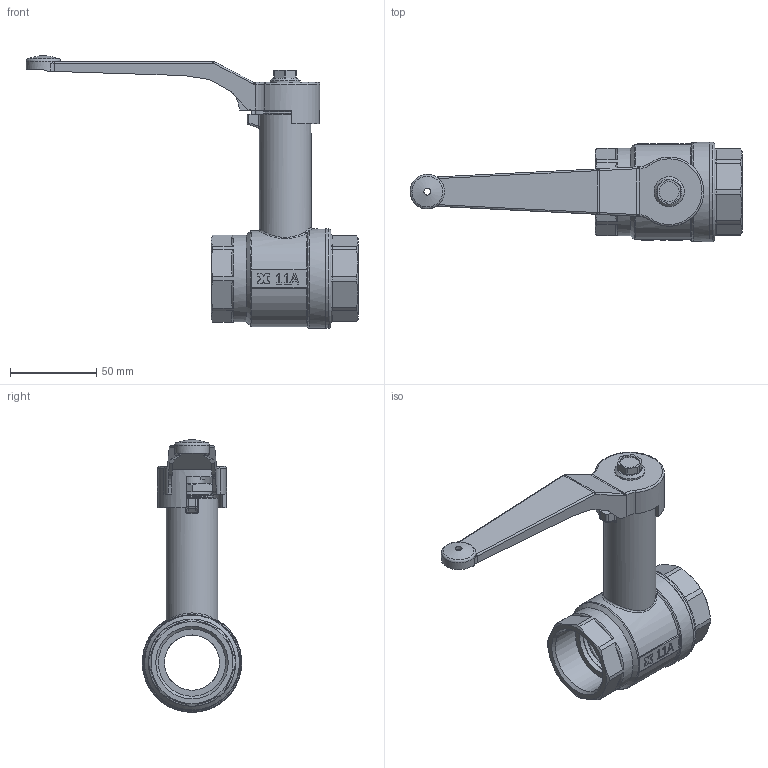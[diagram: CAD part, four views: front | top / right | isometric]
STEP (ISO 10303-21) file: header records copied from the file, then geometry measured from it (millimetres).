
FILE_DESCRIPTION(/* description */ ('Corpo prolunga femmina 1"1/4'),/* implementation_level */ '2;1');
FILE_NAME(/* name */ '\\dcidrosfer01\user$\ut4\Desktop\Traber Ticom 13-03-15\Valvola a sfera 114 art.109.stp',/* time_stamp */ '2015-03-13T14:09:46+01:00',/* author */ ('ut4'),/* organization */ (''),/* preprocessor_version */ 'ST-DEVELOPER v15.6',/* originating_system */ 'Autodesk Inventor 2015',/* authorisation */ '');
FILE_SCHEMA (('AUTOMOTIVE_DESIGN { 1 0 10303 214 3 1 1 }'));
Length unit declared in the file: millimetre
Products named in the file (13): Corpo prolunga femmina 114; Perno prolunga corto Ø19; Leva 4; Vite rond. inc. 8x12 DACRO; Sede 114; sfera 114; Manicotto femmina 114; Premistoppa prolunga 114 112; anello stoppa 23; O-ring 13.95 x 2.62; Rondella ottone prolunga 23; Tubetto prolunga 20 corto; Valvola a sfera 114 art.109
Assembly tree (14 placements, depth 2):
  Valvola a sfera 114 art.109
    Corpo prolunga femmina 114
    Perno prolunga corto Ø19
    Leva 4
    Vite rond. inc. 8x12 DACRO
    Sede 114  x2
    sfera 114
    Manicotto femmina 114
    Premistoppa prolunga 114 112
    anello stoppa 23
    O-ring 13.95 x 2.62
    Rondella ottone prolunga 23  x2
    Tubetto prolunga 20 corto
Bounding box: 192.15 x 57.5 x 157.78 mm (x, y, z)
Volume: 165196.5 mm3; surface area: 95190 mm2
Topology: 14 solids, 14 shells, 576 faces, 1397 edges, 876 vertices
Faces by surface type: plane 294, cylinder 126, cone 71, bspline 45, torus 35, sphere 5
Full cylindrical faces by diameter (mm): 4 x1, 6.647 x1, 8 x1, 11.5 x1, 14.7 x1, 14.8 x2, 15 x1, 15.2 x1, 15.3 x1, 15.8 x2, 16 x3, 16.1 x1, 17.5 x2, 18 x1, 19 x2, 19.3 x1, 20 x2, 22.1 x1, 23 x3, 23.5 x1, 23.7 x1, 30 x1, 32 x5, 38.955 x1, 39 x1, 43 x4, 50.5 x2, 52 x1, 52.5 x1, 57.5 x2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
Entity records: 17245 total; most frequent: CARTESIAN_POINT 4436, DIRECTION 2539, ORIENTED_EDGE 2506, EDGE_CURVE 1253, AXIS2_PLACEMENT_3D 934, VERTEX_POINT 842, EDGE_LOOP 715, LINE 671
